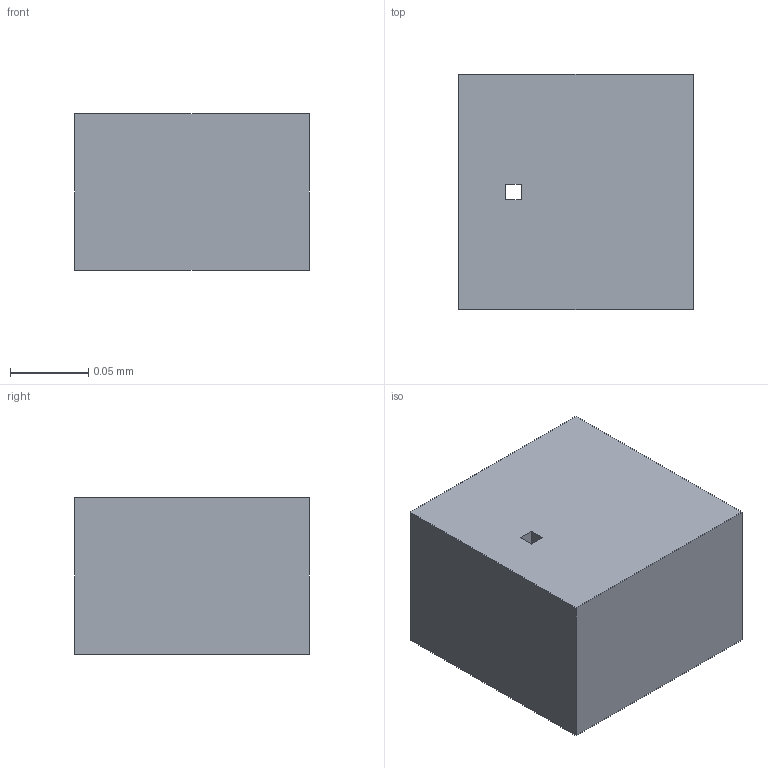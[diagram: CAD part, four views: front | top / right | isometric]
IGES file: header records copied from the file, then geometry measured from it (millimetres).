
Start section: DESIGNBASE IGES
Global section: file name: D:\CAD\FEM\MagTest\LearningTest1\static\air.igs; native system: RICOH DESIGNBASE V13; preprocessor: IGES PREPROCESSOR V13; author: unknown; organization: unknown; date: 20150724.223602; units: millimetre
Bounding box: 0.15 x 0.15 x 0.1 mm (x, y, z)
Volume: 0 mm3; surface area: 0.1 mm2
Topology: 1 solids, 4 shells, 28 faces, 60 edges, 40 vertices
Faces by surface type: bspline 28
